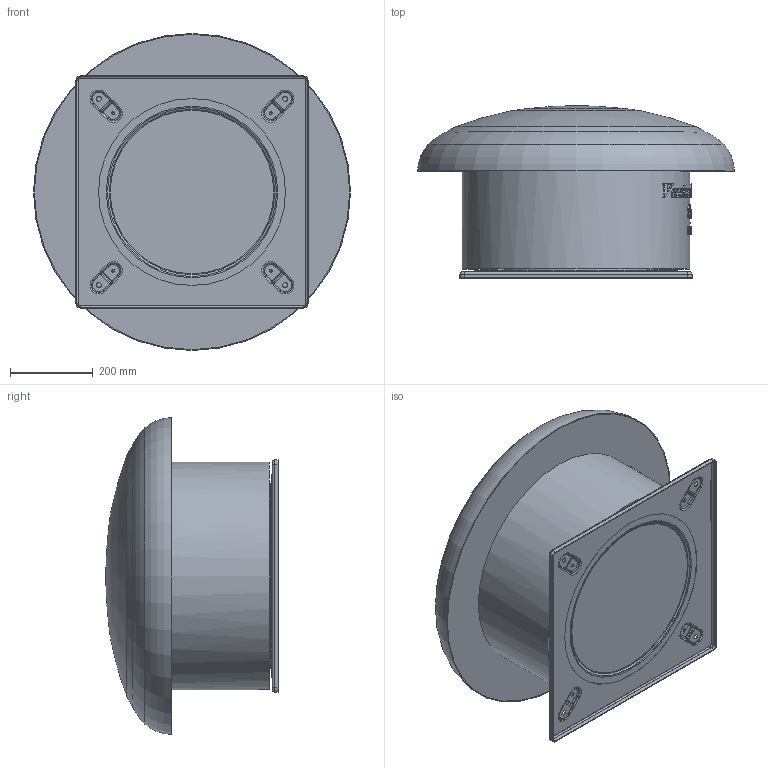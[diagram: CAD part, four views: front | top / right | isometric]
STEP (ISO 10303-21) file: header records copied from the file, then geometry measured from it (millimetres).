
FILE_DESCRIPTION(/* description */ (''),/* implementation_level */ '2;1');
FILE_NAME(/* name */ 'D:\Piotr - Dokumenty\Modele uproszczone\RF\RF X-400X\gotowe\RF_X_400_X SIMPLIFIED V2.stp',/* time_stamp */ '2021-03-09T12:07:39+01:00',/* author */ ('Piotr.Nowotniak'),/* organization */ (''),/* preprocessor_version */ 'ST-DEVELOPER v18',/* originating_system */ 'Autodesk Inventor 2020',/* authorisation */ '');
FILE_SCHEMA (('AUTOMOTIVE_DESIGN { 1 0 10303 214 3 1 1 }'));
Length unit declared in the file: millimetre
Products named in the file (1): RF_X_400_X SIMPLIFIED V2
Bounding box: 765 x 416.43 x 765 mm (x, y, z)
Volume: 107005168.7 mm3; surface area: 1922061.9 mm2
Topology: 1 solids, 1 shells, 872 faces, 2319 edges, 1499 vertices
Faces by surface type: bspline 429, plane 264, cylinder 132, torus 35, cone 12
Full cylindrical faces by diameter (mm): 6.5 x4, 12 x4, 394.665 x1, 450 x1, 451.076 x1, 550 x1
Entity records: 39074 total; most frequent: CARTESIAN_POINT 18782, ORIENTED_EDGE 4638, DIRECTION 3053, EDGE_CURVE 2319, VERTEX_POINT 1499, AXIS2_PLACEMENT_3D 1145, EDGE_LOOP 938, STYLED_ITEM 873
